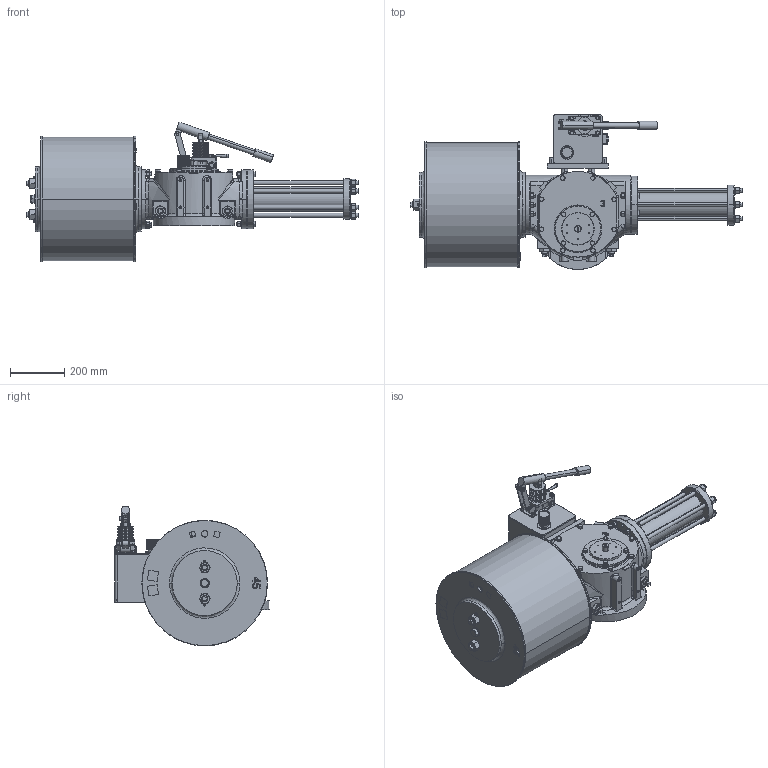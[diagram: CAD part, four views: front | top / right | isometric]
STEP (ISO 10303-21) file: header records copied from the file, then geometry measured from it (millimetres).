
FILE_DESCRIPTION (( 'STEP AP203' ), '1' );
FILE_NAME ('VTS3-450-MH.STEP', '2023-01-01T09:14:32', ( '' ), ( '' ), 'SwSTEP 2.0', 'SolidWorks 2020', '' );
FILE_SCHEMA (( 'CONFIG_CONTROL_DESIGN' ));
Length unit declared in the file: millimetre
Products named in the file (1): VTS3-450-MH
Bounding box: 1226 x 571.9 x 516.27 mm (x, y, z)
Volume: 84774012.2 mm3; surface area: 2573446.3 mm2
Topology: 71 solids, 74 shells, 2638 faces, 6508 edges, 4124 vertices
Faces by surface type: plane 1067, cylinder 854, cone 560, bspline 153, torus 4
Entity records: 94221 total; most frequent: CARTESIAN_POINT 32433, ORIENTED_EDGE 12902, DIRECTION 12819, EDGE_CURVE 6451, AXIS2_PLACEMENT_3D 5008, VERTEX_POINT 4124, EDGE_LOOP 2991, LINE 2803
